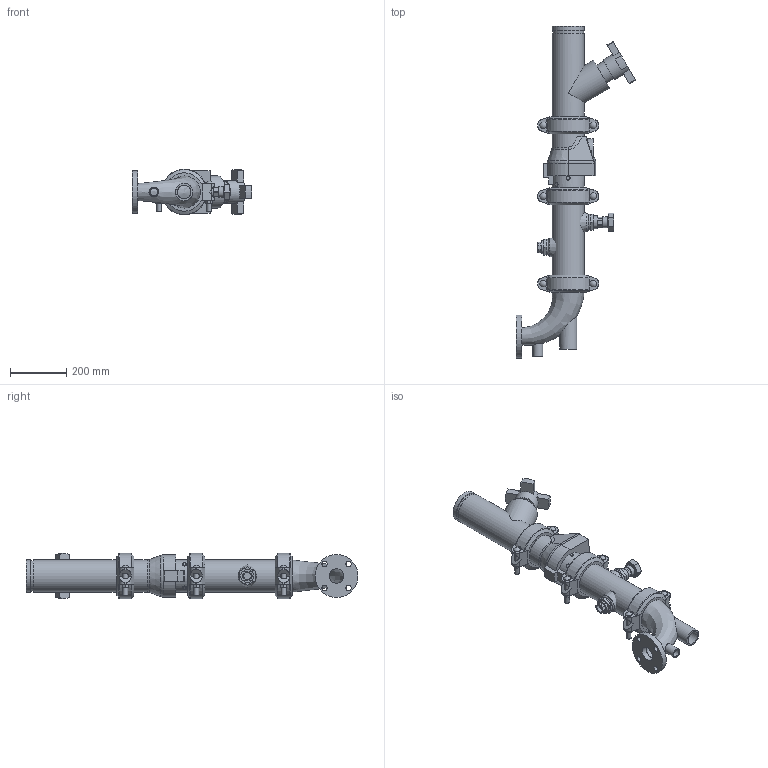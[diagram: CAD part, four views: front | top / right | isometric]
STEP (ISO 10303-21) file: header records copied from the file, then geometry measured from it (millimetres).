
FILE_DESCRIPTION(/* description */ ('VIC DVI PUMP DROP HORZ S/383 (OGSxFLG) (S/924-1.25)','CAx-IF Rec.Pracs.---Representation and Presentation of Product Manufacturing Information (PMI)---4.0---2014-10-13'),/* implementation_level */ '2;1');
FILE_NAME(/* name */ 'C:\Users\Vjadhav\AppData\Roaming\Autodesk\ApplicationPlugins\Victaulic.Temp\A892\Victaulic_IPS_Horizontal DVI_CL 150_Series 383 (OGSxFLG)_924 (1.25)_04.0x02.0 (100x50).stp',/* time_stamp */ '2022-02-28T15:42:31+05:00',/* author */ ('kkamble'),/* organization */ ('Victaulic'),/* preprocessor_version */ 'ST-DEVELOPER v17.2',/* originating_system */ 'Autodesk Inventor 2019',/* authorisation */ '');
FILE_SCHEMA (('AP242_MANAGED_MODEL_BASED_3D_ENGINEERING_MIM_LF { 1 0 10303 442 1 1 4 }'));
Length unit declared in the file: inch
Products named in the file (8): 383-924 (1.25)-04.0x02.0; Pipe-04.0x02.0; 789-04.0; 177N-04.0; 779-04.0; 923-04.0x0.75; 924-04.0x01.25; R100F-04.0x02.0
Assembly tree (9 placements, depth 2):
  383-924 (1.25)-04.0x02.0
    177N-04.0  x3
    Pipe-04.0x02.0
    789-04.0
    779-04.0
    923-04.0x0.75
    924-04.0x01.25
    R100F-04.0x02.0
Bounding box: 423.93 x 1179.51 x 162.05 mm (x, y, z)
Volume: 7738125.5 mm3; surface area: 1371730.3 mm2
Topology: 9 solids, 10 shells, 541 faces, 1439 edges, 960 vertices
Faces by surface type: plane 316, cylinder 178, torus 18, cone 17, sphere 6, bspline 6
Full cylindrical faces by diameter (mm): 13.716 x2, 17.424 x6, 19.05 x4, 21.336 x1, 23.495 x6, 26.67 x3, 34.29 x1, 38.608 x1, 42.164 x1, 45.974 x4, 48.26 x1, 48.514 x1, 52.502 x1, 55.626 x2, 60.96 x1, 72.39 x1, 82.55 x1, 101.6 x3, 102.26 x4, 110.084 x7, 114.3 x18, 152.4 x1
Entity records: 12967 total; most frequent: CARTESIAN_POINT 3313, DIRECTION 1974, ORIENTED_EDGE 1826, EDGE_CURVE 913, AXIS2_PLACEMENT_3D 751, VERTEX_POINT 616, LINE 472, VECTOR 472
